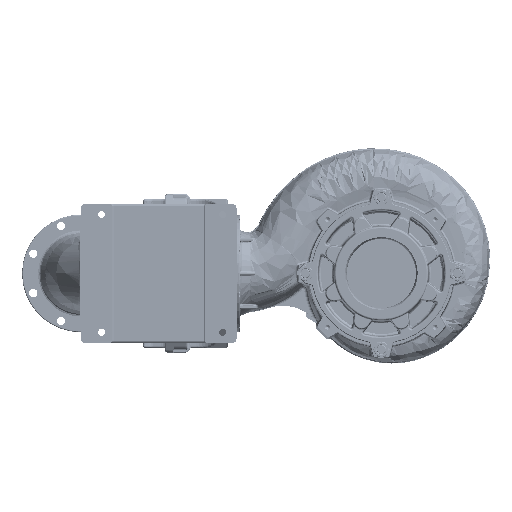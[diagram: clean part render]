
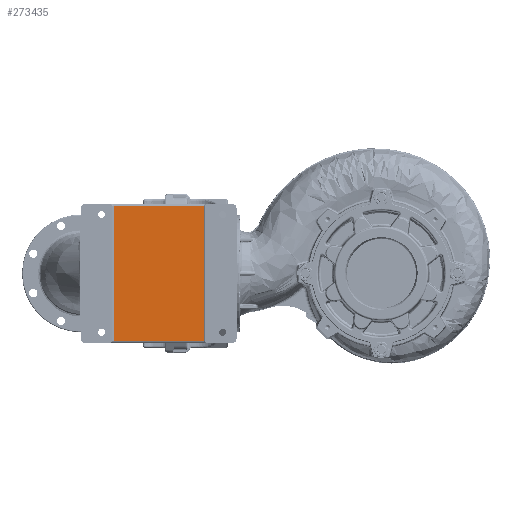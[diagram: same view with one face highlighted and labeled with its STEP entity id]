
A CAD part, front view. The second image highlights one B-rep face of the part: STEP entity #273435.
In plain terms, the highlighted planar face has unit normal (0, -1, 0).
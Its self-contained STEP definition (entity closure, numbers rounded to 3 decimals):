
#836 = LINE ( 'NONE', #33945, #218561 ) ;
#14148 = CARTESIAN_POINT ( 'NONE',  ( -774., -45.202, -200. ) ) ;
#16407 = DIRECTION ( 'NONE',  ( 0., 0., -1. ) ) ;
#17541 = PLANE ( 'NONE',  #42517 ) ;
#33945 = CARTESIAN_POINT ( 'NONE',  ( -514., -45.202, 200. ) ) ;
#42517 = AXIS2_PLACEMENT_3D ( 'NONE', #97857, #144975, #251938 ) ;
#43058 = DIRECTION ( 'NONE',  ( -1., 0., 0. ) ) ;
#49233 = ORIENTED_EDGE ( 'NONE', *, *, #135348, .T. ) ;
#51762 = LINE ( 'NONE', #243037, #244845 ) ;
#74632 = EDGE_CURVE ( 'NONE', #301684, #253277, #51762, .T. ) ;
#97857 = CARTESIAN_POINT ( 'NONE',  ( -779., -45.202, -230. ) ) ;
#103886 = ORIENTED_EDGE ( 'NONE', *, *, #74632, .T. ) ;
#111896 = VERTEX_POINT ( 'NONE', #196946 ) ;
#128236 = DIRECTION ( 'NONE',  ( 1., 0., 0. ) ) ;
#131435 = VECTOR ( 'NONE', #16407, 1000. ) ;
#135348 = EDGE_CURVE ( 'NONE', #111896, #289932, #273831, .T. ) ;
#144975 = DIRECTION ( 'NONE',  ( 0., 1., 0. ) ) ;
#174349 = CARTESIAN_POINT ( 'NONE',  ( -514., -45.202, -195. ) ) ;
#178024 = EDGE_LOOP ( 'NONE', ( #49233, #204957, #103886, #327786 ) ) ;
#192636 = EDGE_CURVE ( 'NONE', #253277, #111896, #193108, .T. ) ;
#193108 = LINE ( 'NONE', #14148, #131435 ) ;
#196946 = CARTESIAN_POINT ( 'NONE',  ( -774., -45.202, -195. ) ) ;
#204957 = ORIENTED_EDGE ( 'NONE', *, *, #280055, .T. ) ;
#218561 = VECTOR ( 'NONE', #241879, 1000. ) ;
#230478 = FACE_OUTER_BOUND ( 'NONE', #178024, .T. ) ;
#241879 = DIRECTION ( 'NONE',  ( 0., 0., 1. ) ) ;
#243037 = CARTESIAN_POINT ( 'NONE',  ( -779., -45.202, 195. ) ) ;
#244845 = VECTOR ( 'NONE', #43058, 1000. ) ;
#251938 = DIRECTION ( 'NONE',  ( 0., 0., 1. ) ) ;
#253277 = VERTEX_POINT ( 'NONE', #337517 ) ;
#269425 = CARTESIAN_POINT ( 'NONE',  ( -514., -45.202, 195. ) ) ;
#273435 = ADVANCED_FACE ( 'NONE', ( #230478 ), #17541, .F. ) ;
#273831 = LINE ( 'NONE', #285789, #306464 ) ;
#280055 = EDGE_CURVE ( 'NONE', #289932, #301684, #836, .T. ) ;
#285789 = CARTESIAN_POINT ( 'NONE',  ( -509., -45.202, -195. ) ) ;
#289932 = VERTEX_POINT ( 'NONE', #174349 ) ;
#301684 = VERTEX_POINT ( 'NONE', #269425 ) ;
#306464 = VECTOR ( 'NONE', #128236, 1000. ) ;
#327786 = ORIENTED_EDGE ( 'NONE', *, *, #192636, .T. ) ;
#337517 = CARTESIAN_POINT ( 'NONE',  ( -774., -45.202, 195. ) ) ;
